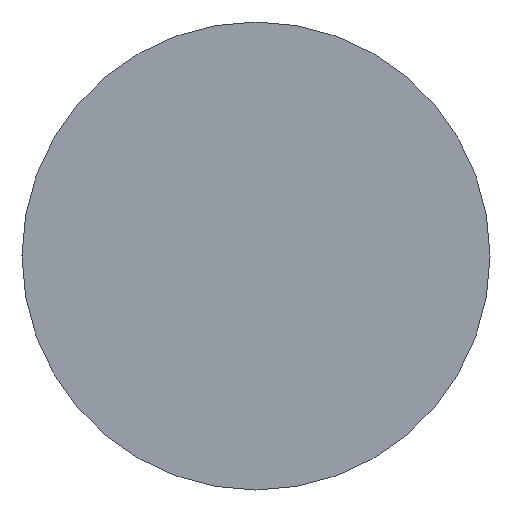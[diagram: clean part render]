
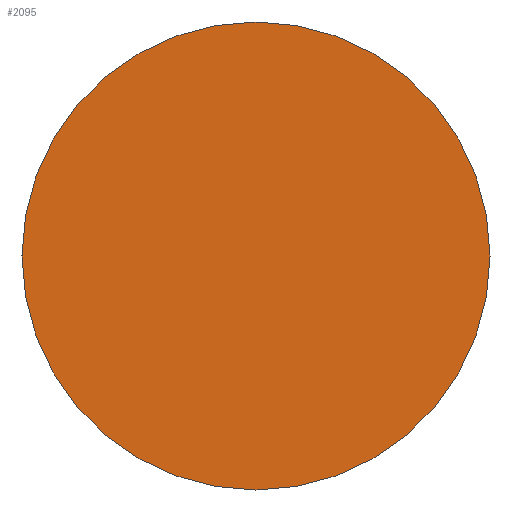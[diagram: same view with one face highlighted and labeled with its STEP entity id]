
A CAD part, front view. The second image highlights one B-rep face of the part: STEP entity #2095.
In plain terms, the highlighted planar face has unit normal (0, -1, 0).
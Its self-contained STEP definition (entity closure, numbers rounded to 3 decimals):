
#43 = AXIS2_PLACEMENT_3D ( 'NONE', #679, #1548, #2252 ) ;
#139 = CARTESIAN_POINT ( 'NONE',  ( 27.5, -24., 0. ) ) ;
#679 = CARTESIAN_POINT ( 'NONE',  ( 0., -24., 0. ) ) ;
#994 = CARTESIAN_POINT ( 'NONE',  ( -27.5, -24., 0. ) ) ;
#1095 = DIRECTION ( 'NONE',  ( 0., -1., 0. ) ) ;
#1548 = DIRECTION ( 'NONE',  ( 0., -1., 0. ) ) ;
#1791 = ORIENTED_EDGE ( 'NONE', *, *, #3536, .T. ) ;
#1794 = EDGE_LOOP ( 'NONE', ( #1791, #1994 ) ) ;
#1994 = ORIENTED_EDGE ( 'NONE', *, *, #2883, .T. ) ;
#2063 = VERTEX_POINT ( 'NONE', #2647 ) ;
#2095 = ADVANCED_FACE ( 'NONE', ( #3311 ), #3882, .T. ) ;
#2252 = DIRECTION ( 'NONE',  ( 1., 0., 0. ) ) ;
#2291 = DIRECTION ( 'NONE',  ( 1., 0., 0. ) ) ;
#2647 = CARTESIAN_POINT ( 'NONE',  ( 27.5, -24., 0. ) ) ;
#2782 = CIRCLE ( 'NONE', #3113, 27.5 ) ;
#2875 = DIRECTION ( 'NONE',  ( 1., 0., 0. ) ) ;
#2883 = EDGE_CURVE ( 'NONE', #3944, #2063, #3953, .T. ) ;
#3113 = AXIS2_PLACEMENT_3D ( 'NONE', #3522, #1095, #2875 ) ;
#3311 = FACE_OUTER_BOUND ( 'NONE', #1794, .T. ) ;
#3522 = CARTESIAN_POINT ( 'NONE',  ( 0., -24., 0. ) ) ;
#3536 = EDGE_CURVE ( 'NONE', #2063, #3944, #2782, .T. ) ;
#3577 = DIRECTION ( 'NONE',  ( 0., -1., 0. ) ) ;
#3767 = AXIS2_PLACEMENT_3D ( 'NONE', #139, #3577, #2291 ) ;
#3882 = PLANE ( 'NONE',  #3767 ) ;
#3944 = VERTEX_POINT ( 'NONE', #994 ) ;
#3953 = CIRCLE ( 'NONE', #43, 27.5 ) ;
